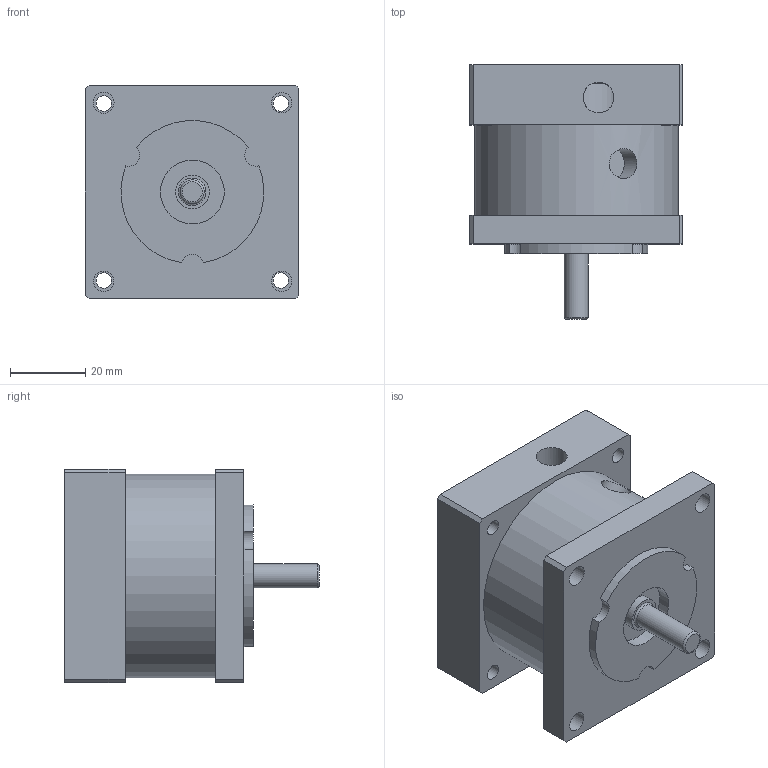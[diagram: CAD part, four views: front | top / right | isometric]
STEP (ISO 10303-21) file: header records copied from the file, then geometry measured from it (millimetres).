
FILE_DESCRIPTION( ( 'Unknown' ), '1' );
FILE_NAME( 'K:/JVL/MAB23x/CAD internet tegninger/STEP/STEP/MAS23x-90.stp', 'Unknown', ( 'Unknown' ), ( 'Unknown' ), 'PSStep 11.0', 'Unknown', ' ' );
FILE_SCHEMA( ( 'AUTOMOTIVE_DESIGN { 1 0 10303 214 1 1 1 1 }' ) );
Length unit declared in the file: millimetre
Products named in the file (1): 1
Bounding box: 56.79 x 67.7 x 57 mm (x, y, z)
Volume: 122007.5 mm3; surface area: 23036.9 mm2
Topology: 1 solids, 1 shells, 72 faces, 184 edges, 124 vertices
Faces by surface type: plane 40, cylinder 30, torus 2
Full cylindrical faces by diameter (mm): 4.134 x4, 5.4 x3, 5.6 x1, 6.35 x1, 8 x1, 8.2 x1, 9 x1, 17 x1, 31.6 x1, 38.1 x1, 54.2 x1
Entity records: 2776 total; most frequent: CARTESIAN_POINT 471, DIRECTION 364, ORIENTED_EDGE 312, EDGE_CURVE 156, AXIS2_PLACEMENT_3D 137, EDGE_LOOP 118, VERTEX_POINT 114, FACE_OUTER_BOUND 90
